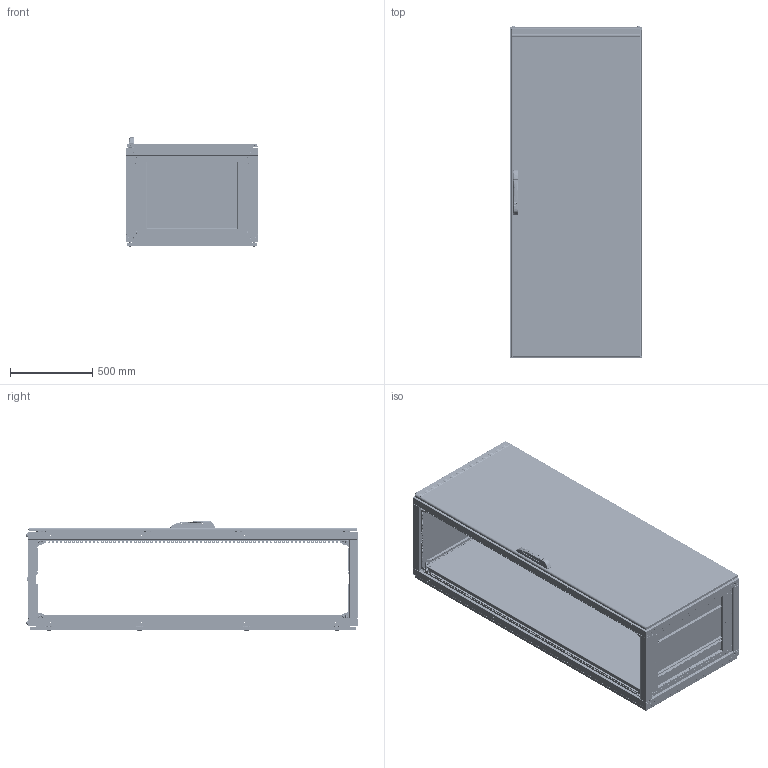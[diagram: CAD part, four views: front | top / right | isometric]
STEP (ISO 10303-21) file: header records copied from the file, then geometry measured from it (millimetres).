
FILE_DESCRIPTION (( 'STEP AP214' ), '1' );
FILE_NAME ('N200806S - 2000 H X 800 W X 600 D - NEO MODULAR.STEP', '2026-09-30T13:48:18', ( '' ), ( '' ), 'SwSTEP 2.0', 'SolidWorks 2025', '' );
FILE_SCHEMA (( 'AUTOMOTIVE_DESIGN' ));
Length unit declared in the file: millimetre
Products named in the file (100): F║ºE KAPAK_; TEOS-NEO MP Right Bracket with pin_25mm; Mounting Plate bottom wedge screw; Teos-Neo MP Sağ Braketi; kasa 2015VER3 NEO26-12_800x2000; TEOS-NEO MP Left Bracket with pin_25mm; curved spring lock washer_din_Spring washer DIN 128 - A8; F║ºE º║FRE_; Top Cover Sheet_PP 16.0065 800X600 UST KAPAK; M6 Plastic Screwholder 2; Plastic Corner- Neo; TEOS-NEO MP Right Bracket with pin_Klavuzlu; kare rondela somunuVER3 NEO26-12; F║ºE KAPAMA_; Lock Hinge_2000; TEOS-NEO MP Right Support Plastic Wedge; 4X8 POP PERÇİN_4X8; YM 3020; NEO Modular Top Cover_800x600; A910 3126 330; ust genişlik deliksizVER3 NEO26-19_PP 16.0006 800 GEN.ÜST; TEOS-NEO Base sheet metal parts_800x600; hex nut gradec_iso1_PreviewCfg; Front Slat_800; socket head cap screw_am_B18.3.1M - 8 x 1.25 x 35 Hex SHCS -- 35NHX; Teos-Neo 3mm MOUNTING PLATE_TEOS MP 800x2000; DİKEY PROFİL VER 1 ACIK PROFİLVER3 NEO26-12_PP 16.0014 H 2000; YZE069T__1_1; Teos-Neo MP Sol Braketi; ARKA KAPAK BRAKETVER3 NEO26-12; YP1189-2-M6_1_1; TEOS-NEO MP pin; HO 2000 019CK_1__1_1; M8 Somun Kafesi_m8; Front door Frame_800x2000; N200806S - 2000 H X 800 W X 600 D - NEO MODULAR; Top Cover  3mm Stopper; Teos-Neo MP Durdurucu; 03-Base Sheet U1 04-2012VER3 NEO26-12_PP 12.0036 -800-200; hex nut heavy_am_B18.2.4.6M - Heavy hex nut,  M12 x 1.75 --W-N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
Assembly tree (272 placements, depth 5):
  N200806S - 2000 H X 800 W X 600 D - NEO MODULAR
    NEO Modular Frame Assembly_800x2000x600
      kasa 2015VER3 NEO26-12_800x2000  x2
        DİKEY PROFİL VER 1 ACIK PROFİLVER3 NEO26-12_PP 16.0014 H 2000
        ust genişlik deliksizVER3 NEO26-19_PP 16.0006 800 GEN.ÜST
        ust genişlik deliksizVER3 NEO26-19_PP 16.0005 800 GEN.ALT
        Kaldırma Kulagi SomunuVER3 NEO26-12_25x25
        hex nut heavy_am_B18.2.4.6M - Heavy hex nut,  M12 x 1.75 --W-N
        MP 0701.0050 M8 SIFIR KAFA PERÇİN SOMUN
      NEO Modular Derinlik_600  x4
        derinlik merdivenliVER3 NEO26-12_PP 16.0017   600
        derinlik iç köşeVER3 NEO26-12_PP 16.0023 600 D İÇ
        epdm contaVER3 NEO26-12
        kare rondela somunuVER3 NEO26-12
        kare rondelaVER3 NEO26-12
        socket head cap screw_am_B18.3.1M - 8 x 1.25 x 20 Hex SHCS -- 20NHX
        curved spring lock washer_din_Spring washer DIN 128 - A8
        4X8 POP PERÇİN
        4X8 POP PERÇİN_4X8
      TEOS-NEO Base sheet metal parts_800x600
        03-Base Sheet U1 04-2012VER3 NEO26-12_PP 12.0041 -800-75
        Base sheet slide part_PP 12.0031 - 800  x2
        03-Base Sheet U1 04-2012VER3 NEO26-12_PP 12.0036 -800-200
      NEO Base Width Part_PP 16.0100 800 GENİŞLİK  x2
      pan head cross recess screw_iso121_ISO 7045 - M5 x 10 - Z --- 10C  x14
      NEO Base depth Part_PP 16.0096 600  x2
      NEO Mounting plate sled_PP 16.1238-600  x2
      4,6 Diameter plug  x2
    NEO Modular Rear Panel_800x2000
      Rear Panel Sheet - Neo_PP 16.0049 800x2000
      countersunk flat head cross recess screw_iso_ISO 7046-1 - M6 x 25 - Z --- 25C  x8
      MP 14.0007 M6 Plastic Countersink  x8
      ARKA KAPAK BRAKETVER3 NEO26-12  x8
      pan head cross recess screw_iso121_ISO 7045 - M5 x 10 - Z --- 10C  x16
    NEO Modular Top Cover_800x600
      Top Cover Sheet_PP 16.0065 800X600 UST KAPAK
      countersunk flat head cross recess screw_iso_ISO 7046-1 - M6 x 25 - Z --- 25C  x2
      MP 14.0007 M6 Plastic Countersink  x2
      plain washer normal grade a_iso_Washer ISO 7089 - 12  x4
      socket button head screw_iso_ISO 7380 - M12 x 30 - 30C  x4
      Top Cover  3mm Stopper  x4
    TEOS-NEO MP Right Bracket with pin_25mm
      TEOS-NEO MP Right Bracket with pin_Klavuzlu
      TEOS-NEO MP pin
      pan head cross recess screw_iso121_ISO 7045 - M5 x 10 - Z --- 10C  x3
    TEOS-NEO MP Left Bracket with pin_25mm
      TEOS-NEO MP Left Bracket with pin_Klavuzlu
      TEOS-NEO MP pin
      pan head cross recess screw_iso121_ISO 7045 - M5 x 10 - Z --- 10C  x3
    Teos-Neo 3mm MOUNTING PLATE_TEOS MP 800x2000
      Teos - Neo Mounting Plate - 3 mm_PP 12.0103 800x2000
      MP 11.0195 Mounting Plate M8 Wedge  x2
      socket head cap screw_am_B18.3.1M - 8 x 1.25 x 35 Hex SHCS -- 35NHX  x2
      Teos-Neo Mounting Plate Right Bracket Mounting_Standart Pozisyon
        Teos-Neo MP Sağ Braketi
        pan head cross recess screw_iso121_ISO 7045 - M5 x 10 - Z --- 10C  x2
        M8 KAFES SOMUN_m8
          M8 Somun Kafesi_m8
          M8 Kare Somun_m8
        Teos-Neo MP Durdurucu
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Bounding box: 800.1 x 2014.6 x 664.99 mm (x, y, z)
Volume: 16256967.9 mm3; surface area: 19215494.5 mm2
Topology: 342 solids, 342 shells, 30700 faces, 83388 edges, 53173 vertices
Faces by surface type: plane 15038, cylinder 11789, cone 1766, torus 1010, bspline 876, sphere 221
Entity records: 347087 total; most frequent: CARTESIAN_POINT 100265, ORIENTED_EDGE 51832, DIRECTION 48311, EDGE_CURVE 25916, VERTEX_POINT 16634, AXIS2_PLACEMENT_3D 16466, LINE 15379, VECTOR 15379
